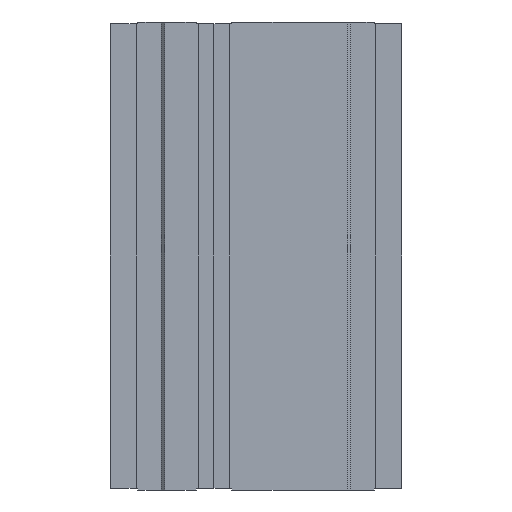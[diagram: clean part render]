
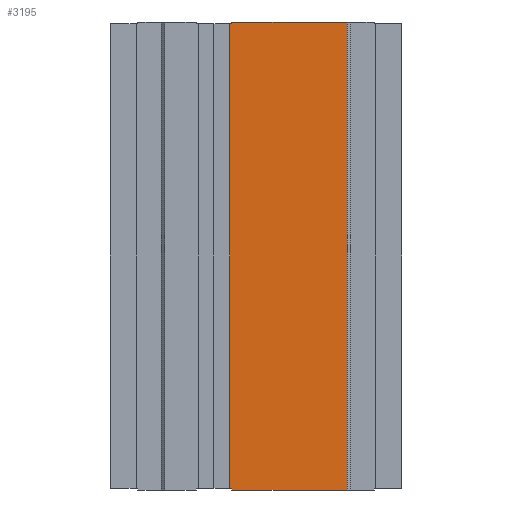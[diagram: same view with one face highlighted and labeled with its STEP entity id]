
A CAD part, left-side view. The second image highlights one B-rep face of the part: STEP entity #3195.
In plain terms, the highlighted planar face has unit normal (-1, 0, 0).
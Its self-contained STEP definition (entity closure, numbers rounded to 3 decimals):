
#101 = LINE ( 'NONE', #102, #103 ) ;
#102 = CARTESIAN_POINT ( 'NONE',  ( -61.5, -85., 148. ) ) ;
#103 = VECTOR ( 'NONE', #104, 1000. ) ;
#104 = DIRECTION ( 'NONE',  ( 0., 0., -1. ) ) ;
#200 = CARTESIAN_POINT ( 'NONE',  ( -61.5, -85., 149. ) ) ;
#635 = LINE ( 'NONE', #637, #638 ) ;
#637 = CARTESIAN_POINT ( 'NONE',  ( -61.5, -11.3, 149. ) ) ;
#638 = VECTOR ( 'NONE', #639, 1000. ) ;
#639 = DIRECTION ( 'NONE',  ( 0., -1., 0. ) ) ;
#731 = CARTESIAN_POINT ( 'NONE',  ( -61.5, -11.3, 149. ) ) ;
#995 = CARTESIAN_POINT ( 'NONE',  ( -61.5, -11.3, -148. ) ) ;
#1156 = LINE ( 'NONE', #1157, #1158 ) ;
#1157 = CARTESIAN_POINT ( 'NONE',  ( -61.5, -11.3, 149. ) ) ;
#1158 = VECTOR ( 'NONE', #1159, 1000. ) ;
#1159 = DIRECTION ( 'NONE',  ( 0., 0., -1. ) ) ;
#1287 = CARTESIAN_POINT ( 'NONE',  ( -61.5, -11.3, 148. ) ) ;
#1394 = LINE ( 'NONE', #1395, #1396 ) ;
#1395 = CARTESIAN_POINT ( 'NONE',  ( -61.5, -10., -148. ) ) ;
#1396 = VECTOR ( 'NONE', #1397, 1000. ) ;
#1397 = DIRECTION ( 'NONE',  ( 0., -1., 0. ) ) ;
#1547 = CARTESIAN_POINT ( 'NONE',  ( -61.5, -10., -148. ) ) ;
#1680 = LINE ( 'NONE', #1681, #1682 ) ;
#1681 = CARTESIAN_POINT ( 'NONE',  ( -61.5, -10., 148. ) ) ;
#1682 = VECTOR ( 'NONE', #1683, 1000. ) ;
#1683 = DIRECTION ( 'NONE',  ( 0., -1., 0. ) ) ;
#2970 = EDGE_CURVE ( 'NONE', #2992, #4657, #6394, .T. ) ;
#2992 = VERTEX_POINT ( 'NONE', #6454 ) ;
#3195 = ADVANCED_FACE ( 'NONE', ( #7759 ), #7760, .F. ) ;
#3236 = EDGE_LOOP ( 'NONE', ( #3293, #3361, #3567, #3808, #4096, #4360, #4649, #4880 ) ) ;
#3293 = ORIENTED_EDGE ( 'NONE', *, *, #4592, .T. ) ;
#3361 = ORIENTED_EDGE ( 'NONE', *, *, #3406, .F. ) ;
#3406 = EDGE_CURVE ( 'NONE', #3450, #4377, #9077, .T. ) ;
#3450 = VERTEX_POINT ( 'NONE', #9300 ) ;
#3567 = ORIENTED_EDGE ( 'NONE', *, *, #3638, .T. ) ;
#3638 = EDGE_CURVE ( 'NONE', #3450, #3698, #9984, .T. ) ;
#3698 = VERTEX_POINT ( 'NONE', #10165 ) ;
#3808 = ORIENTED_EDGE ( 'NONE', *, *, #3897, .F. ) ;
#3897 = EDGE_CURVE ( 'NONE', #3962, #3698, #101, .T. ) ;
#3962 = VERTEX_POINT ( 'NONE', #200 ) ;
#4096 = ORIENTED_EDGE ( 'NONE', *, *, #4174, .F. ) ;
#4174 = EDGE_CURVE ( 'NONE', #4237, #3962, #635, .T. ) ;
#4237 = VERTEX_POINT ( 'NONE', #731 ) ;
#4360 = ORIENTED_EDGE ( 'NONE', *, *, #4453, .T. ) ;
#4377 = VERTEX_POINT ( 'NONE', #995 ) ;
#4453 = EDGE_CURVE ( 'NONE', #4237, #4533, #1156, .T. ) ;
#4533 = VERTEX_POINT ( 'NONE', #1287 ) ;
#4592 = EDGE_CURVE ( 'NONE', #4657, #4377, #1394, .T. ) ;
#4649 = ORIENTED_EDGE ( 'NONE', *, *, #4742, .F. ) ;
#4657 = VERTEX_POINT ( 'NONE', #1547 ) ;
#4742 = EDGE_CURVE ( 'NONE', #2992, #4533, #1680, .T. ) ;
#4880 = ORIENTED_EDGE ( 'NONE', *, *, #2970, .T. ) ;
#6394 = LINE ( 'NONE', #6395, #6396 ) ;
#6395 = CARTESIAN_POINT ( 'NONE',  ( -61.5, -10., 148. ) ) ;
#6396 = VECTOR ( 'NONE', #6397, 1000. ) ;
#6397 = DIRECTION ( 'NONE',  ( 0., 0., -1. ) ) ;
#6454 = CARTESIAN_POINT ( 'NONE',  ( -61.5, -10., 148. ) ) ;
#7759 = FACE_OUTER_BOUND ( 'NONE', #3236, .T. ) ;
#7760 = PLANE ( 'NONE',  #7761 ) ;
#7761 = AXIS2_PLACEMENT_3D ( 'NONE', #7762, #7763, #7771 ) ;
#7762 = CARTESIAN_POINT ( 'NONE',  ( -61.5, -10., 148. ) ) ;
#7763 = DIRECTION ( 'NONE',  ( 1., 0., 0. ) ) ;
#7771 = DIRECTION ( 'NONE',  ( 0., 1., 0. ) ) ;
#9077 = LINE ( 'NONE', #9078, #9079 ) ;
#9078 = CARTESIAN_POINT ( 'NONE',  ( -61.5, -11.3, -149. ) ) ;
#9079 = VECTOR ( 'NONE', #9080, 1000. ) ;
#9080 = DIRECTION ( 'NONE',  ( 0., 0., 1. ) ) ;
#9300 = CARTESIAN_POINT ( 'NONE',  ( -61.5, -11.3, -149. ) ) ;
#9984 = LINE ( 'NONE', #9985, #9986 ) ;
#9985 = CARTESIAN_POINT ( 'NONE',  ( -61.5, -11.3, -149. ) ) ;
#9986 = VECTOR ( 'NONE', #9987, 1000. ) ;
#9987 = DIRECTION ( 'NONE',  ( 0., -1., 0. ) ) ;
#10165 = CARTESIAN_POINT ( 'NONE',  ( -61.5, -85., -149. ) ) ;
